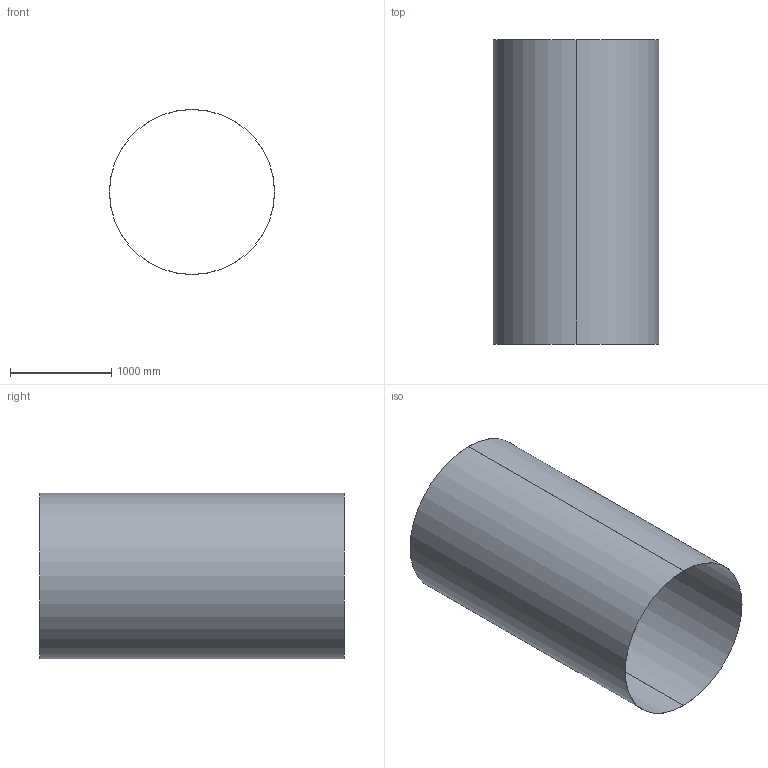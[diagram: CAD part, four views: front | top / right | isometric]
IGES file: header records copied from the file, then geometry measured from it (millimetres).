
Start section:  PTC IGES file: cst_skin_inner.igs
Global section: file name: cst_skin_inner.igs; native system: Pro/ENGINEER by Parametric Technology Corporation; preprocessor: 1999260; author: oshatz; organization: Unknown; date: 000922.101702; units: millimetre
Bounding box: 1633.63 x 3010 x 1633.63 mm (x, y, z)
Surface area: 30888733.4 mm2 (no closed solid volume)
Topology: 0 solids, 0 shells, 6 faces, 24 edges, 24 vertices
Faces by surface type: revolution 4, bspline 2
